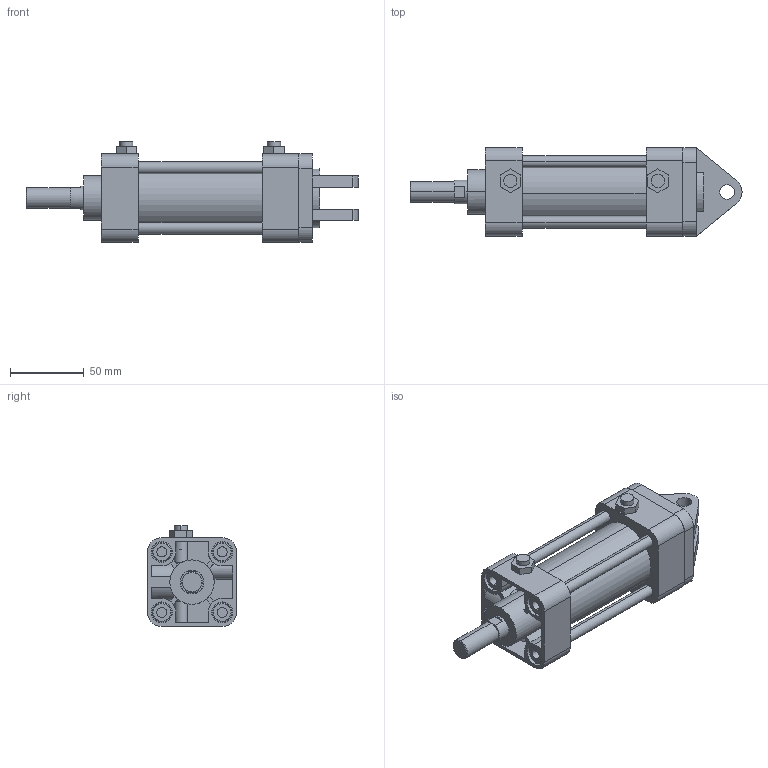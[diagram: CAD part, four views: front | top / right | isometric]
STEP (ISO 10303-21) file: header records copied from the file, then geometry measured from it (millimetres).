
FILE_DESCRIPTION (( 'STEP AP203' ), '1' );
FILE_NAME ('KG2-40-50-W.STEP', '2016-04-01T08:10:50', ( '' ), ( '' ), 'SwSTEP 2.0', 'SolidWorks 2014', '' );
FILE_SCHEMA (( 'CONFIG_CONTROL_DESIGN' ));
Length unit declared in the file: millimetre
Products named in the file (7): KG2-40-50-W; KGLH2-40-50; KG2-40-After; K-40-W
Assembly tree (16 placements, depth 2):
  KG2-40-50-W
    KG2-40-After
    KGLH2-40-50
    (unnamed)
    (unnamed)  x4
    (unnamed)  x8
    K-40-W
Bounding box: 225 x 60 x 68.3 mm (x, y, z)
Volume: 353513.6 mm3; surface area: 98430.4 mm2
Topology: 16 solids, 21 shells, 374 faces, 878 edges, 561 vertices
Faces by surface type: plane 161, cylinder 155, torus 32, cone 26
Entity records: 9715 total; most frequent: CARTESIAN_POINT 1857, DIRECTION 1498, ORIENTED_EDGE 1376, EDGE_CURVE 688, AXIS2_PLACEMENT_3D 557, VERTEX_POINT 451, LINE 384, VECTOR 384
